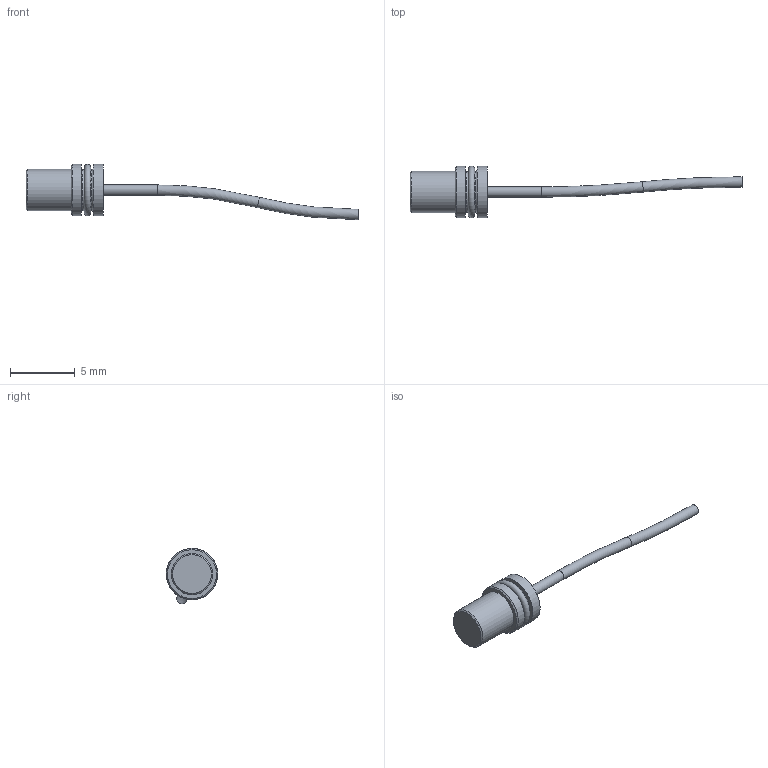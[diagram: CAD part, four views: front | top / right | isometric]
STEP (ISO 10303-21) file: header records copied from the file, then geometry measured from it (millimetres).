
FILE_DESCRIPTION( ( 'Unknown' ), '1' );
FILE_NAME( 'N:/Engineering/CAD/Wirbelstrom/Wirbelstromsensoren/CM03/CM03.stp', 'Unknown', ( 'Unknown' ), ( 'Unknown' ), 'PSStep 17.0.49', 'Unknown', ' ' );
FILE_SCHEMA( ( 'AUTOMOTIVE_DESIGN { 1 0 10303 214 1 1 1 1 }' ) );
Length unit declared in the file: millimetre
Products named in the file (4): 1; 2; 3; 4
Bounding box: 25.73 x 4 x 4.29 mm (x, y, z)
Surface area: 164 mm2 (no closed solid volume)
Topology: 0 solids, 19 shells, 19 faces, 52 edges, 39 vertices
Faces by surface type: torus 6, plane 6, cylinder 5, cone 2
Full cylindrical faces by diameter (mm): 0.8 x1, 3.18 x1, 3.2 x1, 3.98 x2
Entity records: 732 total; most frequent: DIRECTION 118, CARTESIAN_POINT 96, AXIS2_PLACEMENT_3D 59, FACE_BOUND 37, VERTEX_POINT 37, EDGE_LOOP 36, ORIENTED_EDGE 36, EDGE_CURVE 36
